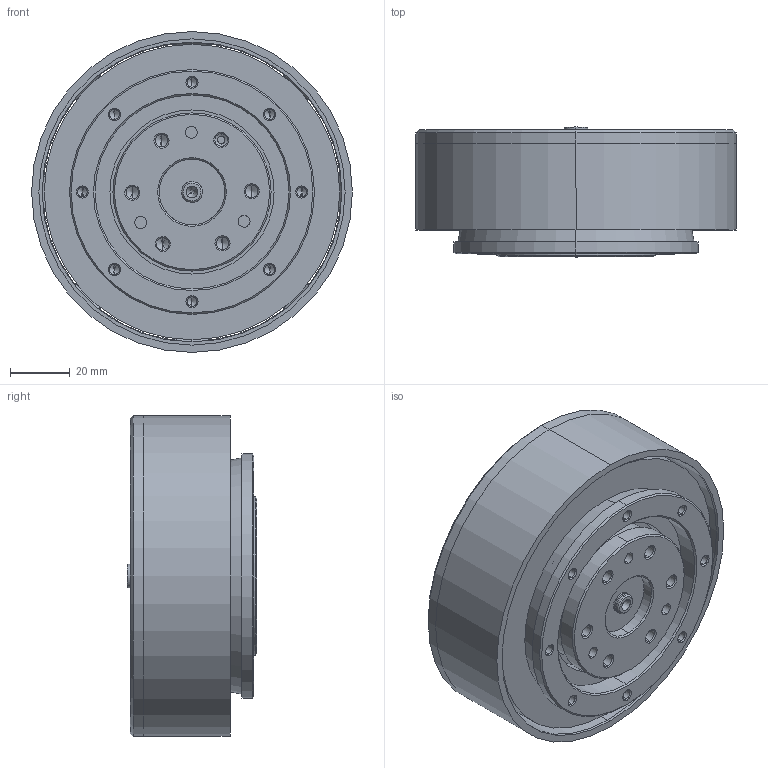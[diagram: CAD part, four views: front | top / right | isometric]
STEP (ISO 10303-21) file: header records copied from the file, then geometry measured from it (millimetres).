
FILE_DESCRIPTION (( 'STEP AP203' ), '1' );
FILE_NAME ('AKE90-8軞芞.STEP', '2024-11-15T02:56:59', ( 'Windows User' ), ( 'P R C' ), 'SwSTEP 2.0', 'SolidWorks 2022', '' );
FILE_SCHEMA (( 'CONFIG_CONTROL_DESIGN' ));
Length unit declared in the file: millimetre
Products named in the file (9): AKE90-8铁芯^AKE90-8总图.STEP; AKE90-8后盖^AKE90-8总图.STEP; 12(1)^AKE90-8总图.STEP; AKE90-8总图; AKE90-8前盖^AKE90-8总图.STEP; AKE90-8下行星架^AKE90-8总图.STEP; AKE90-8输入轴^AKE90-8总图.STEP; 627^AKE90-8总图.STEP; AKE90-8钢圈^AKE90-8总图.STEP
Assembly tree (8 placements, depth 2):
  AKE90-8总图
    AKE90-8后盖^AKE90-8总图.STEP
    AKE90-8铁芯^AKE90-8总图.STEP
    AKE90-8下行星架^AKE90-8总图.STEP
    AKE90-8输入轴^AKE90-8总图.STEP
    AKE90-8前盖^AKE90-8总图.STEP
    AKE90-8钢圈^AKE90-8总图.STEP
    627^AKE90-8总图.STEP
    12(1)^AKE90-8总图.STEP
Bounding box: 107.5 x 43.5 x 107.5 mm (x, y, z)
Volume: 233196.3 mm3; surface area: 101163.3 mm2
Topology: 8 solids, 8 shells, 696 faces, 1714 edges, 1020 vertices
Faces by surface type: cylinder 285, cone 244, plane 130, torus 21, bspline 16
Entity records: 23081 total; most frequent: CARTESIAN_POINT 5334, DIRECTION 3815, ORIENTED_EDGE 3372, EDGE_CURVE 1686, AXIS2_PLACEMENT_3D 1538, VERTEX_POINT 1020, CIRCLE 847, EDGE_LOOP 790
